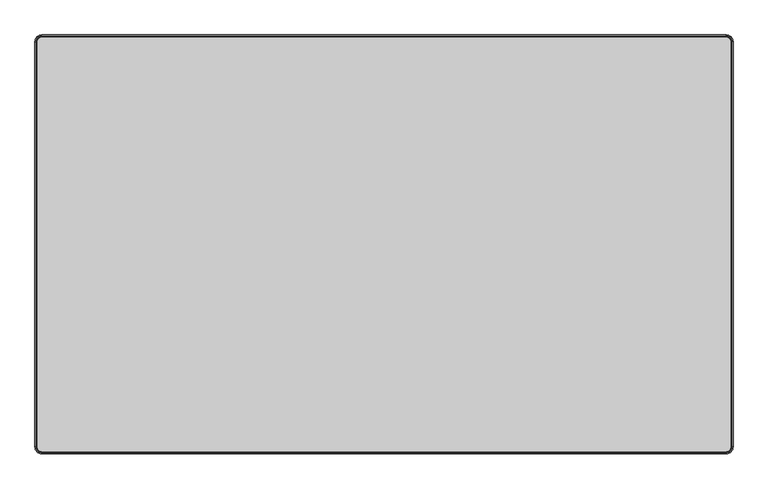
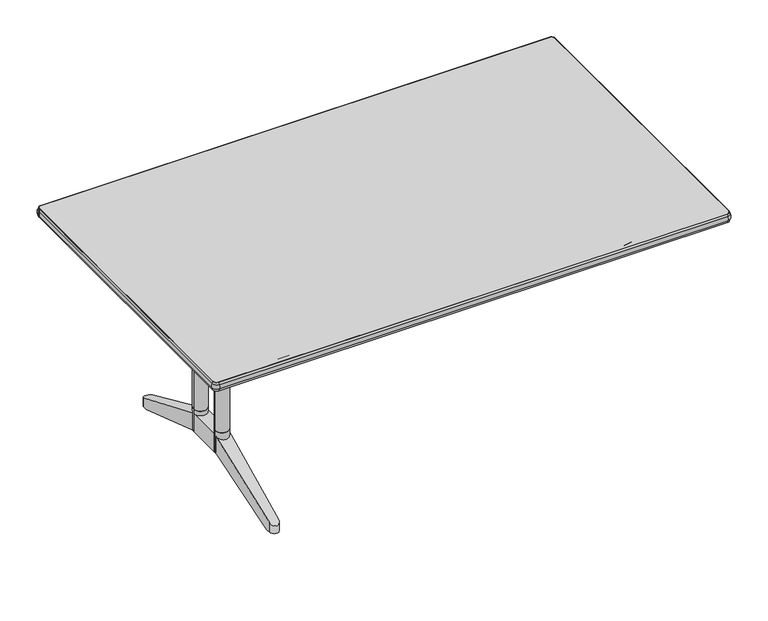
"""IFC4 building model written with IfcOpenShell, lengths in millimetres: furniture geometry."""

import ifcopenshell
import ifcopenshell.guid

model = None  # the IFC model being written
_history = None  # IfcOwnerHistory: only IFC2X3 demands one
_inside = {}  # id of a spatial element -> (the spatial element, [elements in it])
_under = {}  # id of a project, library or spatial element -> (it, [spatial elements below it])
_declared = {}  # id of a project -> (the project, [libraries it declares])
_typed = {}  # id of a type object -> (the type object, [elements of that type])
_made_of = {}  # id of a material, layer set ... -> (it, [elements and type objects made of it])


def new_model(schema):
    """Start an empty IFC model of exactly this schema.

    Asked for "IFC4X3", IfcOpenShell would pick the latest addendum, in which some entities
    have other attributes; the version numbers below select the first issue.
    IFC2X3 requires an IfcOwnerHistory on every rooted entity: one is made here for all.
    """
    global model, _history
    if schema == "IFC4X3":
        model = ifcopenshell.file(schema_version=(4, 3, 0, 0))
    else:
        model = ifcopenshell.file(schema=schema)
    _inside.clear()
    _under.clear()
    _declared.clear()
    _typed.clear()
    _made_of.clear()
    _history = None
    if model.schema == "IFC2X3":
        org = make("IfcOrganization", Name="unknown")
        user = make(
            "IfcPersonAndOrganization",
            ThePerson=make("IfcPerson", FamilyName="unknown"),
            TheOrganization=org,
        )
        app = make(
            "IfcApplication",
            ApplicationDeveloper=org,
            Version="unknown",
            ApplicationFullName="unknown",
            ApplicationIdentifier="unknown",
        )
        _history = make(
            "IfcOwnerHistory",
            OwningUser=user,
            OwningApplication=app,
            ChangeAction="ADDED",
            CreationDate=0,
        )
    return model


def make(cls, **values):
    """One entity of the class cls with the attributes given. An attribute that is None is left unset."""
    return model.create_entity(
        cls, **{name: value for name, value in values.items() if value is not None}
    )


def rooted(cls, **values):
    """An entity with a GlobalId (a new one), such as an element, a storey or a relation."""
    return make(cls, GlobalId=ifcopenshell.guid.new(), OwnerHistory=_history, **values)


def si_unit(unit_type, name, prefix=None):
    """IfcSIUnit, for example si_unit("LENGTHUNIT", "METRE", prefix="MILLI")."""
    return make("IfcSIUnit", UnitType=unit_type, Prefix=prefix, Name=name)


def assignment(units):
    """IfcUnitAssignment: the units of a project."""
    return None if units is None else make("IfcUnitAssignment", Units=units)


def point(xyz):
    """IfcCartesianPoint."""
    return None if xyz is None else make("IfcCartesianPoint", Coordinates=xyz)


def direction(xyz):
    """IfcDirection."""
    return None if xyz is None else make("IfcDirection", DirectionRatios=xyz)


def frame(location, z_axis=None, x_axis=None):
    """IfcAxis2Placement3D, a coordinate frame: its origin and axes. An axis left out is left unset."""
    return make(
        "IfcAxis2Placement3D",
        Location=point(location),
        Axis=direction(z_axis),
        RefDirection=direction(x_axis),
    )


def frame_2d(location, x_axis=None):
    """IfcAxis2Placement2D, a coordinate frame in the plane: its origin and x axis."""
    return make(
        "IfcAxis2Placement2D", Location=point(location), RefDirection=direction(x_axis)
    )


def origin():
    """The frame at (0, 0, 0) with its axes left unset."""
    return frame((0.0, 0.0, 0.0))


def place(relative_to, where):
    """IfcLocalPlacement: puts the frame where relative to a parent placement (None: the world)."""
    return make(
        "IfcLocalPlacement", PlacementRelTo=relative_to, RelativePlacement=where
    )


def context(
    kind, dimensions, precision=None, world=None, true_north=None, identifier=None
):
    """IfcGeometricRepresentationContext, for example the 3D "Model" context."""
    return make(
        "IfcGeometricRepresentationContext",
        ContextIdentifier=identifier,
        ContextType=kind,
        CoordinateSpaceDimension=dimensions,
        Precision=precision,
        WorldCoordinateSystem=world,
        TrueNorth=true_north,
    )


def project(units=None, contexts=None):
    """IfcProject with its units and contexts."""
    return rooted(
        "IfcProject",
        Name="project",
        RepresentationContexts=contexts,
        UnitsInContext=assignment(units),
    )


def spatial(cls, under=None, at=None, **own):
    """A site, building, storey or space (cls), placed at a placement, below another one or the project."""
    s = rooted(cls, ObjectPlacement=at, **own)
    if under is not None:
        _under.setdefault(under.id(), (under, []))[1].append(s)
    return s


def polyline(points):
    """IfcPolyline through the points."""
    return make("IfcPolyline", Points=[point(p) for p in points])


def circle_curve(where, radius):
    """IfcCircle in the frame where."""
    return make("IfcCircle", Position=where, Radius=radius)


def ellipse_curve(where, semi_axis1, semi_axis2):
    """IfcEllipse in the frame where."""
    return make(
        "IfcEllipse", Position=where, SemiAxis1=semi_axis1, SemiAxis2=semi_axis2
    )


def trimmed(basis, trim1, trim2, sense, master):
    """IfcTrimmedCurve: the piece of a basis curve between two trims."""
    return make(
        "IfcTrimmedCurve",
        BasisCurve=basis,
        Trim1=trim1,
        Trim2=trim2,
        SenseAgreement=sense,
        MasterRepresentation=master,
    )


def segment(curve, same_sense, transition):
    """IfcCompositeCurveSegment."""
    return make(
        "IfcCompositeCurveSegment",
        Transition=transition,
        SameSense=same_sense,
        ParentCurve=curve,
    )


def composite_curve(segments, self_intersect=None):
    """IfcCompositeCurve: segments joined end to end."""
    return make("IfcCompositeCurve", Segments=segments, SelfIntersect=self_intersect)


def outline(outer, holes=None, kind="AREA"):
    """IfcArbitraryClosedProfileDef: a profile drawn as a closed curve; with holes, ...WithVoids."""
    if holes is None:
        return make("IfcArbitraryClosedProfileDef", ProfileType=kind, OuterCurve=outer)
    return make(
        "IfcArbitraryProfileDefWithVoids",
        ProfileType=kind,
        OuterCurve=outer,
        InnerCurves=holes,
    )


def extrude(swept, where, along, depth):
    """IfcExtrudedAreaSolid: the profile swept, set in the frame where, extruded along a direction by depth."""
    return make(
        "IfcExtrudedAreaSolid",
        SweptArea=swept,
        Position=where,
        ExtrudedDirection=direction(along),
        Depth=depth,
    )


def shape(context_of_items, identifier, shape_type, items):
    """IfcShapeRepresentation: the items that make up one representation, for example the "Body"."""
    return make(
        "IfcShapeRepresentation",
        ContextOfItems=context_of_items,
        RepresentationIdentifier=identifier,
        RepresentationType=shape_type,
        Items=items,
    )


def source(mapping_origin, context_of_items, identifier, shape_type, items):
    """IfcRepresentationMap: a shape defined once, which mapped items show again and again."""
    return make(
        "IfcRepresentationMap",
        MappingOrigin=mapping_origin,
        MappedRepresentation=shape(context_of_items, identifier, shape_type, items),
    )


def transform(
    local_origin,
    x_axis=None,
    y_axis=None,
    z_axis=None,
    scale=None,
    scale2=None,
    scale3=None,
    uniform=True,
):
    """IfcCartesianTransformationOperator3D, or its non-uniform kind. x_axis, y_axis, z_axis: its Axis1, 2, 3."""
    if uniform:
        return make(
            "IfcCartesianTransformationOperator3D",
            Axis1=direction(x_axis),
            Axis2=direction(y_axis),
            LocalOrigin=point(local_origin),
            Scale=scale,
            Axis3=direction(z_axis),
        )
    return make(
        "IfcCartesianTransformationOperator3DnonUniform",
        Axis1=direction(x_axis),
        Axis2=direction(y_axis),
        LocalOrigin=point(local_origin),
        Scale=scale,
        Axis3=direction(z_axis),
        Scale2=scale2,
        Scale3=scale3,
    )


def mapped(mapping_source, mapping_target):
    """IfcMappedItem: shows the shape of a source again, moved by a transform."""
    return make(
        "IfcMappedItem", MappingSource=mapping_source, MappingTarget=mapping_target
    )


def made_of(thing, what):
    """Note that an element or type object is made of a material, layer set ...; save() writes the relation."""
    if what is not None:
        _made_of.setdefault(what.id(), (what, []))[1].append(thing)
    return thing


def element(
    cls,
    number,
    at=None,
    inside=None,
    cuts=None,
    type_object=None,
    material=None,
    context=None,
    identifier="Body",
    shape_type=None,
    held_by="IfcProductDefinitionShape",
    body=None,
    shapes=None,
    **own,
):
    """One element of the class cls, such as IfcWall. Its Tag is "e" and its number.

    at: its placement. inside: the storey or other place that contains it. cuts: it is an
    opening in that element (IfcRelVoidsElement). A single representation is given by context,
    identifier, shape_type and body (its items); several are given by shapes. held_by: the class
    of the entity that holds the representations. save() writes the other relations.
    """
    e = rooted(cls, Tag="e%d" % number, ObjectPlacement=at, **own)
    if body is not None:
        shapes = [shape(context, identifier, shape_type, body)]
    if shapes is not None:
        e.Representation = make(held_by, Representations=shapes)
    if inside is not None:
        _inside.setdefault(inside.id(), (inside, []))[1].append(e)
    if cuts is not None:
        rooted(
            "IfcRelVoidsElement", RelatingBuildingElement=cuts, RelatedOpeningElement=e
        )
    if type_object is not None:
        _typed.setdefault(type_object.id(), (type_object, []))[1].append(e)
    return made_of(e, material)


def aggregate(whole, parts):
    """IfcRelAggregates: a whole, such as a stair, and the parts it consists of."""
    return rooted("IfcRelAggregates", RelatingObject=whole, RelatedObjects=parts)


def save(model, path):
    """Write the relations noted so far, then the file.

    IfcRelAggregates (storeys below a building ...), IfcRelContainedInSpatialStructure (elements
    in a storey), IfcRelDefinesByType, IfcRelAssociatesMaterial and IfcRelDeclares: one each for
    every whole, place, type object, material and project.
    """
    for whole, parts in _under.values():
        aggregate(whole, parts)
    for where, things in _inside.values():
        rooted(
            "IfcRelContainedInSpatialStructure",
            RelatedElements=things,
            RelatingStructure=where,
        )
    for kind, things in _typed.values():
        rooted("IfcRelDefinesByType", RelatedObjects=things, RelatingType=kind)
    for what, things in _made_of.values():
        rooted("IfcRelAssociatesMaterial", RelatedObjects=things, RelatingMaterial=what)
    for by, libraries in _declared.values():
        rooted("IfcRelDeclares", RelatingContext=by, RelatedDefinitions=libraries)
    model.write(path)


def plane_surface(at):
    """IfcPlane: the flat surface through the origin of the frame at, square to its z axis."""
    return make("IfcPlane", Position=at)


def cylinder_surface(at, radius):
    """IfcCylindricalSurface: all points at the distance radius from the z axis of the frame at."""
    return make("IfcCylindricalSurface", Position=at, Radius=radius)


def revolved_surface(curve, axis_point, axis_direction):
    """IfcSurfaceOfRevolution: the curve turned about the line through axis_point along axis_direction."""
    return make(
        "IfcSurfaceOfRevolution",
        SweptCurve=make("IfcArbitraryOpenProfileDef", ProfileType="CURVE", Curve=curve),
        AxisPosition=make("IfcAxis1Placement", Location=point(axis_point), Axis=direction(axis_direction)),
    )


def advanced_brep(points, edges, surfaces, faces):
    """IfcAdvancedBrep: a solid bounded by faces that lie on surfaces and meet in shared edges.

    An edge is (start, end): straight between two places in points (the first is 0);
    or (start, end, curve); or (start, end, curve, False) where it runs against its curve.
    A face is (place in surfaces, loops), or (place, loops, False) where it looks against
    its surface's normal. A loop lists edges by number (the first is 1), with a minus sign
    where the edge is run from its end to its start. The first loop is the outer one.
    """
    corners = [point(p) for p in points]
    vertices = [make("IfcVertexPoint", VertexGeometry=c) for c in corners]
    made = []
    for start, end, *more in edges:
        made.append(
            make(
                "IfcEdgeCurve",
                EdgeStart=vertices[start],
                EdgeEnd=vertices[end],
                EdgeGeometry=more[0] if more else make("IfcPolyline", Points=[corners[start], corners[end]]),
                SameSense=more[1] if len(more) > 1 else True,
            )
        )
    hull = []
    for where, loops, *sense in faces:
        bounds = []
        for j, loop in enumerate(loops):
            ring = [make("IfcOrientedEdge", EdgeElement=made[abs(k) - 1], Orientation=k > 0) for k in loop]
            bounds.append(
                make(
                    "IfcFaceOuterBound" if j == 0 else "IfcFaceBound",
                    Bound=make("IfcEdgeLoop", EdgeList=ring),
                    Orientation=True,
                )
            )
        hull.append(make("IfcAdvancedFace", Bounds=bounds, FaceSurface=surfaces[where], SameSense=sense[0] if sense else True))
    return make("IfcAdvancedBrep", Outer=make("IfcClosedShell", CfsFaces=hull))


def furniture_8afd48f4(model_context):
    return source(origin(), model_context, "Body", "SolidModel", [
        extrude(outline(composite_curve([segment(trimmed(circle_curve(frame_2d((-508.0, -154.0488451)), 20.0), [point((-528.0, -154.0488451))], [point((-488.0, -154.0488451))], False, "CARTESIAN"), True, "CONTINUOUS"), segment(trimmed(circle_curve(frame_2d((-508.0, -154.0488451)), 20.0), [point((-488.0, -154.0488451))], [point((-528.0, -154.0488451))], False, "CARTESIAN"), True, "CONTINUOUS")], self_intersect=False)), frame((0.0, 0.0, 193.3080085), z_axis=(0.0, 0.0, 1.0), x_axis=(1.0, 0.0, 0.0)), (0.0, 0.0, 1.0), 68.8536941),
        extrude(outline(composite_curve([segment(trimmed(circle_curve(frame_2d((-508.0, -44.0488461)), 20.0), [point((-528.0, -44.0488461))], [point((-488.0, -44.0488461))], False, "CARTESIAN"), True, "CONTINUOUS"), segment(trimmed(circle_curve(frame_2d((-508.0, -44.0488461)), 20.0), [point((-488.0, -44.0488461))], [point((-528.0, -44.0488461))], False, "CARTESIAN"), True, "CONTINUOUS")], self_intersect=False)), frame((0.0, 0.0, 193.3080085), z_axis=(0.0, 0.0, 1.0), x_axis=(1.0, 0.0, 0.0)), (0.0, 0.0, 1.0), 68.8536941),
        extrude(outline(composite_curve([segment(trimmed(circle_curve(frame_2d((-508.0, -154.0488451)), 20.0), [point((-528.0, -154.0488451))], [point((-488.0, -154.0488451))], False, "CARTESIAN"), True, "CONTINUOUS"), segment(trimmed(circle_curve(frame_2d((-508.0, -154.0488451)), 20.0), [point((-488.0, -154.0488451))], [point((-528.0, -154.0488451))], False, "CARTESIAN"), True, "CONTINUOUS")], self_intersect=False)), frame((0.0, 0.0, 262.1617027), z_axis=(0.0, 0.0, 1.0), x_axis=(1.0, 0.0, 0.0)), (0.0, 0.0, 1.0), 318.0882973),
        extrude(outline(composite_curve([segment(trimmed(circle_curve(frame_2d((-508.0, -44.0488461)), 20.0), [point((-528.0, -44.0488461))], [point((-488.0, -44.0488461))], False, "CARTESIAN"), True, "CONTINUOUS"), segment(trimmed(circle_curve(frame_2d((-508.0, -44.0488461)), 20.0), [point((-488.0, -44.0488461))], [point((-528.0, -44.0488461))], False, "CARTESIAN"), True, "CONTINUOUS")], self_intersect=False)), frame((0.0, 0.0, 262.1617027), z_axis=(0.0, 0.0, 1.0), x_axis=(1.0, 0.0, 0.0)), (0.0, 0.0, 1.0), 318.0882973),
        extrude(outline(polyline([(-481.9999882, 147.9511612), (-481.9999882, -352.0488426), (-534.0000118, -352.0488426), (-534.0000118, 147.9511612), (-481.9999882, 147.9511612)])), frame((0.0, 0.0, 676.2500168), z_axis=(0.0, 0.0, 1.0), x_axis=(1.0, 0.0, 0.0)), (0.0, 0.0, 1.0), 27.9999624),
        advanced_brep(
        [(-522.9998762, -140.8200278, 676.2500168), (-492.9998905, -140.8201331, 676.2500168), (-492.9998905, -134.0488456, 676.2500168), (-522.9998762, -134.0488456, 676.2500168), (-492.9998905, -57.2775581, 676.2500168), (-522.9998762, -57.2776634, 676.2500168), (-522.9998762, -64.0488456, 676.2500168), (-492.9998905, -64.0488456, 676.2500168), (-522.9998762, -57.2776634, 580.25), (-492.9998905, -57.2775581, 580.25), (-492.9998905, -140.8201331, 580.25), (-522.9998762, -140.8200278, 580.25), (-522.9998762, -134.0488456, 598.2500176), (-522.9998762, -64.0488456, 598.2500176), (-492.9998905, -64.0488456, 598.2500176), (-492.9998905, -134.0488456, 598.2500176)],
        [
            (0, 1, circle_curve(frame((-507.9999298, -154.0488451, 676.2500168), z_axis=(0.0, 0.0, 1.0), x_axis=(1.0, 0.0, 0.0)), 20.0)),
            (1, 2),
            (2, 3),
            (3, 0),
            (4, 5, circle_curve(frame((-507.9999298, -44.0488461, 676.2500168), z_axis=(0.0, 0.0, 1.0), x_axis=(1.0, 0.0, 0.0)), 20.0)),
            (5, 6),
            (6, 7),
            (7, 4),
            (8, 9, circle_curve(frame((-507.9999298, -44.0488461, 580.25), z_axis=(0.0, 0.0, -1.0), x_axis=(1.0, 0.0, 0.0)), 20.0)),
            (9, 10),
            (10, 11, circle_curve(frame((-507.9999298, -154.0488451, 580.25), z_axis=(0.0, 0.0, -1.0), x_axis=(1.0, 0.0, 0.0)), 20.0)),
            (11, 8),
            (11, 0),
            (3, 12),
            (12, 13),
            (13, 6),
            (5, 8),
            (10, 1),
            (9, 4),
            (7, 14),
            (14, 15),
            (15, 2),
            (15, 12),
            (14, 13),
        ],
        [
            plane_surface(frame((-522.9998762, -140.8200278, 676.2500168), z_axis=(0.0, 0.0, 1.0), x_axis=(0.0, -1.0, 0.0))),
            plane_surface(frame((-522.9998762, -140.8200278, 580.25), z_axis=(0.0, 0.0, -1.0), x_axis=(0.0, 1.0, 0.0))),
            plane_surface(frame((-522.9998762, -57.2776634, 676.2500168), z_axis=(-1.0, 0.0, 0.0), x_axis=(0.0, 0.0, -1.0))),
            cylinder_surface(frame((-507.9999298, -154.0488451, 580.25), z_axis=(0.0, 0.0, 1.0), x_axis=(1.0, 0.0, 0.0)), 20.0),
            plane_surface(frame((-492.9998905, -140.8201331, 676.2500168), z_axis=(1.0, 0.0, 0.0), x_axis=(0.0, 0.0, -1.0))),
            cylinder_surface(frame((-507.9999298, -44.0488461, 580.25), z_axis=(0.0, 0.0, 1.0), x_axis=(1.0, 0.0, 0.0)), 20.0),
            plane_surface(frame((-492.9998905, -134.0488456, 676.2500168), z_axis=(0.0, 1.0, 0.0), x_axis=(-1.0, 0.0, 0.0))),
            plane_surface(frame((-492.9998905, -134.0488456, 598.2500176), z_axis=(0.0, 0.0, 1.0), x_axis=(-1.0, 0.0, 0.0))),
            plane_surface(frame((-492.9998905, -64.0488456, 598.2500176), z_axis=(0.0, -1.0, 0.0), x_axis=(-1.0, 0.0, 0.0))),
        ],
        [
            (0, [[1, 2, 3, 4]]),
            (0, [[5, 6, 7, 8]]),
            (1, [[9, 10, 11, 12]]),
            (2, [[-12, 13, -4, 14, 15, 16, -6, 17]]),
            (3, [[-1, -13, -11, 18]]),
            (4, [[-10, 19, -8, 20, 21, 22, -2, -18]]),
            (5, [[-5, -19, -9, -17]]),
            (6, [[23, -14, -3, -22]]),
            (7, [[-23, -21, 24, -15]]),
            (8, [[-24, -20, -7, -16]]),
        ],
    ),
        advanced_brep(
        [(-488.0000182, -154.0488451, 248.3080085), (-488.0000182, -44.0488461, 248.3080085), (-528.0000182, -44.0488461, 248.3080085), (-528.0000182, -154.0488451, 248.3080085), (-528.0000182, -44.0488461, 193.3080085), (-528.0000182, -154.0488451, 193.3080085), (-488.0000182, -154.0488451, 193.3080085), (-488.0000182, -44.0488461, 193.3080085), (-494.5271049, 208.4135103, 105.0), (-521.472897, 208.4135103, 105.0), (-521.1262294, 221.8222582, 105.0), (-494.8737706, 221.8222564, 105.0), (-521.1262294, 221.8222582, 133.4205559), (-494.8737706, 221.8222564, 133.4205567), (-488.2000412, -36.3121196, 193.3080085), (-527.7999941, -36.3121196, 193.3080085), (-494.8737706, -419.9199475, 133.4205567), (-521.1262294, -419.9199493, 133.4205559), (-494.8737706, -419.9199475, 105.0), (-494.5271049, -406.5112014, 105.0), (-488.2000412, -161.7855715, 193.3080085), (-521.1262294, -419.9199493, 105.0), (-527.7999941, -161.7855715, 193.3080085), (-521.472897, -406.5112014, 105.0)],
        [
            (0, 1),
            (1, 2),
            (2, 3),
            (3, 0),
            (2, 4),
            (4, 5),
            (5, 3),
            (0, 6),
            (6, 7),
            (7, 1),
            (8, 9),
            (9, 10),
            (10, 11, circle_curve(frame((-508.0, 221.4828948, 105.0), z_axis=(0.0, 0.0, -1.0), x_axis=(1.0, 0.0, 0.0)), 13.1306156)),
            (11, 8),
            (12, 2),
            (1, 13),
            (13, 12, ellipse_curve(frame((-508.0, 221.4828948, 133.5672007), z_axis=(0.0, 0.3966672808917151, 0.9179624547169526), x_axis=(0.0, 0.9179624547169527, -0.39666728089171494)), 14.3040878, 13.1306156)),
            (8, 14),
            (14, 15),
            (15, 9),
            (16, 0),
            (3, 17),
            (17, 16, ellipse_curve(frame((-508.0, -419.5805859, 133.5672007), z_axis=(0.0, -0.3966672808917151, 0.9179624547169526), x_axis=(0.0, -0.9179624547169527, -0.39666728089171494)), 14.3040878, 13.1306156)),
            (16, 18),
            (18, 19),
            (19, 20),
            (20, 6),
            (17, 21),
            (21, 18, circle_curve(frame((-508.0, -419.5805859, 105.0), z_axis=(0.0, 0.0, 1.0), x_axis=(1.0, 0.0, 0.0)), 13.1306156)),
            (5, 22),
            (22, 23),
            (23, 21),
            (12, 10),
            (15, 4),
            (13, 11),
            (7, 14),
            (23, 19),
            (22, 20),
        ],
        [
            plane_surface(frame((-488.0000182, -44.0488461, 248.3080085), z_axis=(0.0, 0.0, 1.0), x_axis=(0.0, 1.0, 0.0))),
            plane_surface(frame((-528.0000182, -44.0488461, 248.3080085), z_axis=(-1.0, 0.0, 0.0), x_axis=(0.0, 0.0, -1.0))),
            plane_surface(frame((-488.0000182, -154.0488451, 248.3080085), z_axis=(1.0, 0.0, 0.0), x_axis=(0.0, 0.0, -1.0))),
            plane_surface(frame((-486.6205415, 208.4135103, 105.0), z_axis=(0.0, 0.0, -1.0), x_axis=(-1.0, 0.0, 0.0))),
            plane_surface(frame((-486.6205415, 235.9511544, 127.3152182), z_axis=(0.0, 0.3966672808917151, 0.9179624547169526), x_axis=(-1.0, 0.0, 0.0))),
            plane_surface(frame((-486.6205415, -36.3121196, 193.3080085), z_axis=(0.0, -0.3394229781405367, -0.9406338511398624), x_axis=(-1.0, 0.0, 0.0))),
            plane_surface(frame((-486.6205415, -154.0488451, 248.3080085), z_axis=(0.0, -0.3966672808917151, 0.9179624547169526), x_axis=(-1.0, 0.0, 0.0))),
            plane_surface(frame((-488.0000182, -154.0488451, 249.0000084), z_axis=(0.9996659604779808, -0.025845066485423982, 0.0), x_axis=(0.0, 0.0, -1.0))),
            cylinder_surface(frame((-508.0, -419.5805859, 90.0000025), z_axis=(0.0, 0.0, -1.0), x_axis=(1.0, 0.0, 0.0)), 13.1306156),
            plane_surface(frame((-521.1262294, -419.9199493, 249.0000084), z_axis=(-0.9996659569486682, -0.025845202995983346, 0.0), x_axis=(0.0, 0.0, -1.0))),
            plane_surface(frame((-528.0000182, -44.0488461, 249.0000084), z_axis=(-0.9996659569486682, 0.025845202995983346, 0.0), x_axis=(0.0, 0.0, -1.0))),
            cylinder_surface(frame((-508.0, 221.4828948, 0.0), z_axis=(0.0, 0.0, -1.0), x_axis=(1.0, 0.0, 0.0)), 13.1306156),
            plane_surface(frame((-494.8737706, 221.8222564, 249.0000084), z_axis=(0.9996659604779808, 0.025845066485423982, 0.0), x_axis=(0.0, 0.0, -1.0))),
            plane_surface(frame((-486.6205415, -434.0488456, 105.0), z_axis=(0.0, 0.0, -1.0), x_axis=(-1.0, 0.0, 0.0))),
            plane_surface(frame((-486.6205415, -406.5112014, 105.0), z_axis=(0.0, 0.3394229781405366, -0.9406338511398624), x_axis=(-1.0, 0.0, 0.0))),
            plane_surface(frame((-486.6205415, -44.0488461, 193.3080085), z_axis=(0.0, 0.0, -1.0), x_axis=(-1.0, 0.0, 0.0))),
        ],
        [
            (0, [[1, 2, 3, 4]]),
            (1, [[-3, 5, 6, 7]]),
            (2, [[-1, 8, 9, 10]]),
            (3, [[11, 12, 13, 14]]),
            (4, [[15, -2, 16, 17]]),
            (5, [[-11, 18, 19, 20]]),
            (6, [[21, -4, 22, 23]]),
            (7, [[24, 25, 26, 27, -8, -21]]),
            (8, [[-24, -23, 28, 29]]),
            (9, [[-28, -22, -7, 30, 31, 32]]),
            (10, [[33, -12, -20, 34, -5, -15]]),
            (11, [[-33, -17, 35, -13]]),
            (12, [[-35, -16, -10, 36, -18, -14]]),
            (13, [[37, -25, -29, -32]]),
            (14, [[-37, -31, 38, -26]]),
            (15, [[-19, -36, -9, -27, -38, -30, -6, -34]]),
        ],
    ),
        extrude(outline(composite_curve([segment(trimmed(circle_curve(frame_2d((-747.0, 343.1511544)), 10.0), [point((-757.0, 343.1511544))], [point((-747.0, 353.1511544))], False, "CARTESIAN"), True, "CONTINUOUS"), segment(polyline([(-747.0, 353.1511544), (747.0, 353.1511544)]), True, "CONTINUOUS"), segment(trimmed(circle_curve(frame_2d((747.0, 343.1511544)), 10.0), [point((747.0, 353.1511544))], [point((757.0, 343.1511544))], False, "CARTESIAN"), True, "CONTINUOUS"), segment(polyline([(757.0, 343.1511544), (757.0, -541.2488456)]), True, "CONTINUOUS"), segment(trimmed(circle_curve(frame_2d((747.0, -541.2488456)), 10.0), [point((757.0, -541.2488456))], [point((747.0, -551.2488456))], False, "CARTESIAN"), True, "CONTINUOUS"), segment(polyline([(747.0, -551.2488456), (-747.0, -551.2488456)]), True, "CONTINUOUS"), segment(trimmed(circle_curve(frame_2d((-747.0, -541.2488456)), 10.0), [point((-747.0, -551.2488456))], [point((-757.0, -541.2488456))], False, "CARTESIAN"), True, "CONTINUOUS"), segment(polyline([(-757.0, -541.2488456), (-757.0, 343.1511544)]), True, "CONTINUOUS")], self_intersect=False)), frame((0.0, 0.0, 704.2499792), z_axis=(0.0, 0.0, 1.0), x_axis=(1.0, 0.0, 0.0)), (0.0, 0.0, 1.0), 26.0000208),
        extrude(outline(composite_curve([segment(trimmed(circle_curve(frame_2d((690.249998, -508.0)), 3.5), [point((686.749998, -508.0))], [point((693.749998, -508.0))], False, "CARTESIAN"), True, "CONTINUOUS"), segment(trimmed(circle_curve(frame_2d((690.249998, -508.0)), 3.5), [point((693.749998, -508.0))], [point((686.749998, -508.0))], False, "CARTESIAN"), True, "CONTINUOUS")], self_intersect=False)), frame((0.0, -482.6394749, 0.0), z_axis=(0.0, 1.0, 0.0), x_axis=(0.0, 0.0, 1.0)), (0.0, 0.0, 1.0), 130.5906323),
        extrude(outline(composite_curve([segment(trimmed(circle_curve(frame_2d((690.249998, 508.0)), 3.5), [point((686.749998, 508.0))], [point((693.749998, 508.0))], False, "CARTESIAN"), True, "CONTINUOUS"), segment(trimmed(circle_curve(frame_2d((690.249998, 508.0)), 3.5), [point((693.749998, 508.0))], [point((686.749998, 508.0))], False, "CARTESIAN"), True, "CONTINUOUS")], self_intersect=False)), frame((0.0, -482.6394749, 0.0), z_axis=(0.0, 1.0, 0.0), x_axis=(0.0, 0.0, 1.0)), (0.0, 0.0, 1.0), 130.5906323),
        advanced_brep(
        [(-747.0, -551.2488456, 704.2499792), (-757.0, -541.2488456, 704.2499792), (-757.0, -541.2488456, 730.25), (-747.0, -551.2488456, 730.25), (-747.0, -554.6983863, 710.6562743), (-760.4495407, -541.2488456, 710.6562743), (-758.2436764, -541.2488456, 704.2499792), (-747.0, -552.492522, 704.2499792), (-747.0, -554.6983863, 723.843705), (-760.4495407, -541.2488456, 723.843705), (-747.0, -552.492522, 730.25), (-758.2436764, -541.2488456, 730.25), (747.0, -551.2488456, 730.25), (747.0, -551.2488456, 704.2499792), (747.0, -552.492522, 704.2499792), (747.0, -554.6983863, 710.6562743), (747.0, -554.6983863, 723.843705), (747.0, -552.492522, 730.25), (757.0, -541.2488456, 704.2499792), (757.0, -541.2488456, 730.25), (760.4495407, -541.2488456, 710.6562743), (758.2436764, -541.2488456, 704.2499792), (760.4495407, -541.2488456, 723.843705), (758.2436764, -541.2488456, 730.25), (757.0, 343.1511544, 730.25), (757.0, 343.1511544, 704.2499792), (758.2436764, 343.1511544, 704.2499792), (760.4495407, 343.1511544, 710.6562743), (760.4495407, 343.1511544, 723.843705), (758.2436764, 343.1511544, 730.25), (747.0, 353.1511544, 704.2499792), (747.0, 353.1511544, 730.25), (747.0, 356.6006952, 710.6562743), (747.0, 354.3948309, 704.2499792), (747.0, 356.6006952, 723.843705), (747.0, 354.3948309, 730.25), (-747.0, 353.1511544, 730.25), (-747.0, 353.1511544, 704.2499792), (-747.0, 354.3948309, 704.2499792), (-747.0, 356.6006952, 710.6562743), (-747.0, 356.6006952, 723.843705), (-747.0, 354.3948309, 730.25), (-757.0, 343.1511544, 704.2499792), (-757.0, 343.1511544, 730.25), (-760.4495407, 343.1511544, 710.6562743), (-758.2436764, 343.1511544, 704.2499792), (-760.4495407, 343.1511544, 723.843705), (-758.2436764, 343.1511544, 730.25)],
        [
            (0, 1, circle_curve(frame((-747.0, -541.2488456, 704.2499792), z_axis=(0.0, 0.0, -1.0), x_axis=(-1.0, 0.0, 0.0)), 10.0)),
            (1, 2),
            (2, 3, circle_curve(frame((-747.0, -541.2488456, 730.25), z_axis=(0.0, 0.0, 1.0), x_axis=(-1.0, 0.0, 0.0)), 10.0)),
            (3, 0),
            (4, 5, circle_curve(frame((-747.0, -541.2488456, 710.6562743), z_axis=(0.0, 0.0, -1.0), x_axis=(-1.0, 0.0, 0.0)), 13.4495407)),
            (5, 6),
            (6, 7, circle_curve(frame((-747.0, -541.2488456, 704.2499792), z_axis=(0.0, 0.0, 1.0), x_axis=(-1.0, 0.0, 0.0)), 11.2436764)),
            (7, 4),
            (8, 9, circle_curve(frame((-747.0, -541.2488456, 723.843705), z_axis=(0.0, 0.0, -1.0), x_axis=(-1.0, 0.0, 0.0)), 13.4495407)),
            (9, 5, circle_curve(frame((-747.2040596, -541.2488456, 717.2499896), z_axis=(0.0, -1.0, 0.0), x_axis=(1.0, 0.0, 0.0)), 14.7959404)),
            (4, 8, circle_curve(frame((-747.0, -541.4529051, 717.2499896), z_axis=(-1.0, 0.0, 0.0), x_axis=(0.0, 1.0, 0.0)), 14.7959404)),
            (10, 11, circle_curve(frame((-747.0, -541.2488456, 730.25), z_axis=(0.0, 0.0, -1.0), x_axis=(-1.0, 0.0, 0.0)), 11.2436764)),
            (11, 9),
            (8, 10),
            (3, 12),
            (12, 13),
            (13, 0),
            (7, 14),
            (14, 15),
            (15, 4),
            (15, 16, circle_curve(frame((747.0, -541.4529051, 717.2499896), z_axis=(-1.0, 0.0, 0.0), x_axis=(0.0, 1.0, 0.0)), 14.7959404)),
            (16, 8),
            (16, 17),
            (17, 10),
            (18, 13, circle_curve(frame((747.0, -541.2488456, 704.2499792), z_axis=(0.0, 0.0, -1.0), x_axis=(0.0, -1.0, 0.0)), 10.0)),
            (12, 19, circle_curve(frame((747.0, -541.2488456, 730.25), z_axis=(0.0, 0.0, 1.0), x_axis=(0.0, -1.0, 0.0)), 10.0)),
            (19, 18),
            (20, 15, circle_curve(frame((747.0, -541.2488456, 710.6562743), z_axis=(0.0, 0.0, -1.0), x_axis=(0.0, -1.0, 0.0)), 13.4495407)),
            (14, 21, circle_curve(frame((747.0, -541.2488456, 704.2499792), z_axis=(0.0, 0.0, 1.0), x_axis=(0.0, -1.0, 0.0)), 11.2436764)),
            (21, 20),
            (22, 16, circle_curve(frame((747.0, -541.2488456, 723.843705), z_axis=(0.0, 0.0, -1.0), x_axis=(0.0, -1.0, 0.0)), 13.4495407)),
            (20, 22, circle_curve(frame((747.2040596, -541.2488456, 717.2499896), z_axis=(0.0, -1.0, 0.0), x_axis=(-1.0, 0.0, 0.0)), 14.7959404)),
            (23, 17, circle_curve(frame((747.0, -541.2488456, 730.25), z_axis=(0.0, 0.0, -1.0), x_axis=(0.0, -1.0, 0.0)), 11.2436764)),
            (22, 23),
            (19, 24),
            (24, 25),
            (25, 18),
            (21, 26),
            (26, 27),
            (27, 20),
            (27, 28, circle_curve(frame((747.2040596, 343.1511544, 717.2499896), z_axis=(0.0, -1.0, 0.0), x_axis=(-1.0, 0.0, 0.0)), 14.7959404)),
            (28, 22),
            (28, 29),
            (29, 23),
            (30, 25, circle_curve(frame((747.0, 343.1511544, 704.2499792), z_axis=(0.0, 0.0, -1.0), x_axis=(1.0, 0.0, 0.0)), 10.0)),
            (24, 31, circle_curve(frame((747.0, 343.1511544, 730.25), z_axis=(0.0, 0.0, 1.0), x_axis=(1.0, 0.0, 0.0)), 10.0)),
            (31, 30),
            (32, 27, circle_curve(frame((747.0, 343.1511544, 710.6562743), z_axis=(0.0, 0.0, -1.0), x_axis=(1.0, 0.0, 0.0)), 13.4495407)),
            (26, 33, circle_curve(frame((747.0, 343.1511544, 704.2499792), z_axis=(0.0, 0.0, 1.0), x_axis=(1.0, 0.0, 0.0)), 11.2436764)),
            (33, 32),
            (34, 28, circle_curve(frame((747.0, 343.1511544, 723.843705), z_axis=(0.0, 0.0, -1.0), x_axis=(1.0, 0.0, 0.0)), 13.4495407)),
            (32, 34, circle_curve(frame((747.0, 343.355214, 717.2499896), z_axis=(1.0, 0.0, 0.0), x_axis=(0.0, -1.0, 0.0)), 14.7959404)),
            (35, 29, circle_curve(frame((747.0, 343.1511544, 730.25), z_axis=(0.0, 0.0, -1.0), x_axis=(1.0, 0.0, 0.0)), 11.2436764)),
            (34, 35),
            (31, 36),
            (36, 37),
            (37, 30),
            (33, 38),
            (38, 39),
            (39, 32),
            (39, 40, circle_curve(frame((-747.0, 343.355214, 717.2499896), z_axis=(1.0, 0.0, 0.0), x_axis=(0.0, -1.0, 0.0)), 14.7959404)),
            (40, 34),
            (40, 41),
            (41, 35),
            (42, 37, circle_curve(frame((-747.0, 343.1511544, 704.2499792), z_axis=(0.0, 0.0, -1.0), x_axis=(0.0, 1.0, 0.0)), 10.0)),
            (36, 43, circle_curve(frame((-747.0, 343.1511544, 730.25), z_axis=(0.0, 0.0, 1.0), x_axis=(0.0, 1.0, 0.0)), 10.0)),
            (43, 42),
            (44, 39, circle_curve(frame((-747.0, 343.1511544, 710.6562743), z_axis=(0.0, 0.0, -1.0), x_axis=(0.0, 1.0, 0.0)), 13.4495407)),
            (38, 45, circle_curve(frame((-747.0, 343.1511544, 704.2499792), z_axis=(0.0, 0.0, 1.0), x_axis=(0.0, 1.0, 0.0)), 11.2436764)),
            (45, 44),
            (46, 40, circle_curve(frame((-747.0, 343.1511544, 723.843705), z_axis=(0.0, 0.0, -1.0), x_axis=(0.0, 1.0, 0.0)), 13.4495407)),
            (44, 46, circle_curve(frame((-747.2040596, 343.1511544, 717.2499896), z_axis=(0.0, 1.0, 0.0), x_axis=(1.0, 0.0, 0.0)), 14.7959404)),
            (47, 41, circle_curve(frame((-747.0, 343.1511544, 730.25), z_axis=(0.0, 0.0, -1.0), x_axis=(0.0, 1.0, 0.0)), 11.2436764)),
            (46, 47),
            (43, 2),
            (1, 42),
            (45, 6),
            (5, 44),
            (9, 46),
            (11, 47),
        ],
        [
            revolved_surface(polyline([(-757.0, -541.2488456, 730.25), (-757.0, -541.2488456, 704.2499792)]), (-747.0, -541.2488456, 730.25), (0.0, 0.0, 1.0)),
            revolved_surface(polyline([(-758.2436764, -541.2488456, 704.2499792), (-760.4495407, -541.2488456, 710.6562743)]), (-747.0, -541.2488456, 730.25), (0.0, 0.0, 1.0)),
            revolved_surface(trimmed(ellipse_curve(frame((-747.2040596, -541.2488456, 717.2499896), z_axis=(0.0, 1.0, 0.0), x_axis=(1.0, 0.0, 0.0)), 14.7959404, 14.7959404), [point((-760.4495407, -541.2488456, 710.6562743))], [point((-760.4495407, -541.2488456, 723.843705))], True, "CARTESIAN"), (-747.0, -541.2488456, 730.25), (0.0, 0.0, 1.0)),
            revolved_surface(polyline([(-760.4495407, -541.2488456, 723.843705), (-758.2436764, -541.2488456, 730.25)]), (-747.0, -541.2488456, 730.25), (0.0, 0.0, 1.0)),
            plane_surface(frame((-747.0, -551.2488456, 730.25), z_axis=(0.0, 1.0, 0.0), x_axis=(1.0, 0.0, 0.0))),
            plane_surface(frame((-747.0, -552.492522, 704.2499792), z_axis=(0.0, -0.9455185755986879, -0.32556815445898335), x_axis=(1.0, 0.0, 0.0))),
            cylinder_surface(frame((-747.0, -541.4529051, 717.2499896), z_axis=(-1.0, 0.0, 0.0), x_axis=(0.0, 1.0, 0.0)), 14.7959404),
            plane_surface(frame((-747.0, -554.6983863, 723.843705), z_axis=(0.0, -0.945518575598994, 0.32556815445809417), x_axis=(1.0, 0.0, 0.0))),
            revolved_surface(polyline([(747.0, -551.2488456, 730.25), (747.0, -551.2488456, 704.2499792)]), (747.0, -541.2488456, 730.25), (0.0, 0.0, 1.0)),
            revolved_surface(polyline([(747.0, -552.492522, 704.2499792), (747.0, -554.6983863, 710.6562743)]), (747.0, -541.2488456, 730.25), (0.0, 0.0, 1.0)),
            revolved_surface(trimmed(ellipse_curve(frame((747.0, -541.4529051, 717.2499896), z_axis=(-1.0, 0.0, 0.0), x_axis=(0.0, 1.0, 0.0)), 14.7959404, 14.7959404), [point((747.0, -554.6983863, 710.6562743))], [point((747.0, -554.6983863, 723.843705))], True, "CARTESIAN"), (747.0, -541.2488456, 730.25), (0.0, 0.0, 1.0)),
            revolved_surface(polyline([(747.0, -554.6983863, 723.843705), (747.0, -552.492522, 730.25)]), (747.0, -541.2488456, 730.25), (0.0, 0.0, 1.0)),
            plane_surface(frame((757.0, -541.2488456, 730.25), z_axis=(-1.0, 0.0, 0.0), x_axis=(0.0, 1.0, 0.0))),
            plane_surface(frame((758.2436764, -541.2488456, 704.2499792), z_axis=(0.9455185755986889, 0.0, -0.32556815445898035), x_axis=(0.0, 1.0, 0.0))),
            cylinder_surface(frame((747.2040596, -541.2488456, 717.2499896), z_axis=(0.0, -1.0, 0.0), x_axis=(-1.0, 0.0, 0.0)), 14.7959404),
            plane_surface(frame((760.4495407, -541.2488456, 723.843705), z_axis=(0.945518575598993, 0.0, 0.32556815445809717), x_axis=(0.0, 1.0, 0.0))),
            revolved_surface(polyline([(757.0, 343.1511544, 730.25), (757.0, 343.1511544, 704.2499792)]), (747.0, 343.1511544, 730.25), (0.0, 0.0, 1.0)),
            revolved_surface(polyline([(758.2436764, 343.1511544, 704.2499792), (760.4495407, 343.1511544, 710.6562743)]), (747.0, 343.1511544, 730.25), (0.0, 0.0, 1.0)),
            revolved_surface(trimmed(ellipse_curve(frame((747.2040596, 343.1511544, 717.2499896), z_axis=(0.0, -1.0, 0.0), x_axis=(-1.0, 0.0, 0.0)), 14.7959404, 14.7959404), [point((760.4495407, 343.1511544, 710.6562743))], [point((760.4495407, 343.1511544, 723.843705))], True, "CARTESIAN"), (747.0, 343.1511544, 730.25), (0.0, 0.0, 1.0)),
            revolved_surface(polyline([(760.4495407, 343.1511544, 723.843705), (758.2436764, 343.1511544, 730.25)]), (747.0, 343.1511544, 730.25), (0.0, 0.0, 1.0)),
            plane_surface(frame((747.0, 353.1511544, 730.25), z_axis=(0.0, -1.0, 0.0), x_axis=(-1.0, 0.0, 0.0))),
            plane_surface(frame((747.0, 354.3948309, 704.2499792), z_axis=(0.0, 0.9455185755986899, -0.32556815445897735), x_axis=(-1.0, 0.0, 0.0))),
            cylinder_surface(frame((747.0, 343.355214, 717.2499896), z_axis=(1.0, 0.0, 0.0), x_axis=(0.0, -1.0, 0.0)), 14.7959404),
            plane_surface(frame((747.0, 356.6006952, 723.843705), z_axis=(0.0, 0.945518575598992, 0.32556815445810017), x_axis=(-1.0, 0.0, 0.0))),
            revolved_surface(polyline([(-747.0, 353.1511544, 730.25), (-747.0, 353.1511544, 704.2499792)]), (-747.0, 343.1511544, 730.25), (0.0, 0.0, 1.0)),
            revolved_surface(polyline([(-747.0, 354.3948309, 704.2499792), (-747.0, 356.6006952, 710.6562743)]), (-747.0, 343.1511544, 730.25), (0.0, 0.0, 1.0)),
            revolved_surface(trimmed(ellipse_curve(frame((-747.0, 343.355214, 717.2499896), z_axis=(1.0, 0.0, 0.0), x_axis=(0.0, -1.0, 0.0)), 14.7959404, 14.7959404), [point((-747.0, 356.6006952, 710.6562743))], [point((-747.0, 356.6006952, 723.843705))], True, "CARTESIAN"), (-747.0, 343.1511544, 730.25), (0.0, 0.0, 1.0)),
            revolved_surface(polyline([(-747.0, 356.6006952, 723.843705), (-747.0, 354.3948309, 730.25)]), (-747.0, 343.1511544, 730.25), (0.0, 0.0, 1.0)),
            plane_surface(frame((-757.0, 343.1511544, 730.25), z_axis=(1.0, 0.0, 0.0), x_axis=(0.0, -1.0, 0.0))),
            plane_surface(frame((-758.2436764, 343.1511544, 704.2499792), z_axis=(-0.9455185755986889, 0.0, -0.32556815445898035), x_axis=(0.0, -1.0, 0.0))),
            cylinder_surface(frame((-747.2040596, 343.1511544, 717.2499896), z_axis=(0.0, 1.0, 0.0), x_axis=(1.0, 0.0, 0.0)), 14.7959404),
            plane_surface(frame((-760.4495407, 343.1511544, 723.843705), z_axis=(-0.945518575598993, 0.0, 0.32556815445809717), x_axis=(0.0, -1.0, 0.0))),
            plane_surface(frame((-757.0, 343.1511544, 704.2499792), z_axis=(0.0, 0.0, -1.0), x_axis=(0.0, -1.0, 0.0))),
            plane_surface(frame((-758.2436764, 343.1511544, 730.25), z_axis=(0.0, 0.0, 1.0), x_axis=(0.0, -1.0, 0.0))),
        ],
        [
            (0, [[1, 2, 3, 4]]),
            (1, [[5, 6, 7, 8]]),
            (2, [[9, 10, -5, 11]]),
            (3, [[12, 13, -9, 14]]),
            (4, [[-4, 15, 16, 17]]),
            (5, [[-8, 18, 19, 20]]),
            (6, [[-11, -20, 21, 22]]),
            (7, [[-14, -22, 23, 24]]),
            (8, [[25, -16, 26, 27]]),
            (9, [[28, -19, 29, 30]]),
            (10, [[31, -21, -28, 32]]),
            (11, [[33, -23, -31, 34]]),
            (12, [[-27, 35, 36, 37]]),
            (13, [[-30, 38, 39, 40]]),
            (14, [[-32, -40, 41, 42]]),
            (15, [[-34, -42, 43, 44]]),
            (16, [[45, -36, 46, 47]]),
            (17, [[48, -39, 49, 50]]),
            (18, [[51, -41, -48, 52]]),
            (19, [[53, -43, -51, 54]]),
            (20, [[-47, 55, 56, 57]]),
            (21, [[-50, 58, 59, 60]]),
            (22, [[-52, -60, 61, 62]]),
            (23, [[-54, -62, 63, 64]]),
            (24, [[65, -56, 66, 67]]),
            (25, [[68, -59, 69, 70]]),
            (26, [[71, -61, -68, 72]]),
            (27, [[73, -63, -71, 74]]),
            (28, [[-67, 75, -2, 76]]),
            (29, [[-70, 77, -6, 78]]),
            (30, [[-72, -78, -10, 79]]),
            (31, [[-74, -79, -13, 80]]),
            (32, [[-77, -69, -58, -49, -38, -29, -18, -7], [-57, -65, -76, -1, -17, -25, -37, -45]]),
            (33, [[-64, -73, -80, -12, -24, -33, -44, -53], [-75, -66, -55, -46, -35, -26, -15, -3]]),
        ],
    ),
        advanced_brep(
        [(-533.9999286, -482.6394749, 701.9835614), (-533.9999286, -482.6394749, 686.9835614), (-453.1927788, -482.6394749, 678.983541), (-452.000359, -482.6394749, 693.983541), (452.000359, -482.6394749, 693.983541), (453.1927788, -482.6394749, 678.983541), (533.8748715, -482.6394749, 701.9835614), (533.8748715, -482.6394749, 686.9835614), (502.0003594, -482.6394749, 701.9835614), (503.1927792, -482.6394749, 686.9835614), (-502.0003594, -482.6394749, 701.9835614), (-503.1927792, -482.6394749, 686.9835614)],
        [
            (0, 1, circle_curve(frame((-533.9999286, -482.6394749, 694.4835614), z_axis=(-1.0, 0.0, 0.0), x_axis=(0.0, 0.0, -1.0)), 7.5)),
            (1, 0, circle_curve(frame((-533.9999286, -482.6394749, 694.4835614), z_axis=(-1.0, 0.0, 0.0), x_axis=(0.0, 0.0, -1.0)), 7.5)),
            (2, 3, ellipse_curve(frame((-452.5965689, -482.6394749, 686.483541), z_axis=(0.9968551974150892, 0.0, -0.07924465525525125), x_axis=(-0.07924465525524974, 0.0, -0.9968551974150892)), 7.5236604, 7.5)),
            (3, 4),
            (4, 5, ellipse_curve(frame((452.5965689, -482.6394749, 686.483541), z_axis=(-0.9968551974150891, 0.0, -0.07924465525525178), x_axis=(-0.07924465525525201, 0.0, 0.9968551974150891)), 7.5236604, 7.5)),
            (5, 2),
            (3, 2, ellipse_curve(frame((-452.5965689, -482.6394749, 686.483541), z_axis=(0.9968551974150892, 0.0, -0.07924465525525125), x_axis=(-0.07924465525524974, 0.0, -0.9968551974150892)), 7.5236604, 7.5)),
            (5, 4, ellipse_curve(frame((452.5965689, -482.6394749, 686.483541), z_axis=(-0.9968551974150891, 0.0, -0.07924465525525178), x_axis=(-0.07924465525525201, 0.0, 0.9968551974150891)), 7.5236604, 7.5)),
            (6, 7, circle_curve(frame((533.8748715, -482.6394749, 694.4835614), z_axis=(1.0, 0.0, 0.0), x_axis=(0.0, 0.0, -1.0)), 7.5)),
            (7, 6, circle_curve(frame((533.8748715, -482.6394749, 694.4835614), z_axis=(1.0, 0.0, 0.0), x_axis=(0.0, 0.0, -1.0)), 7.5)),
            (4, 8),
            (8, 9, ellipse_curve(frame((502.5965693, -482.6394749, 694.4835614), z_axis=(-0.9968551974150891, 0.0, -0.07924465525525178), x_axis=(0.07924465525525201, 0.0, -0.9968551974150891)), 7.5236604, 7.5)),
            (9, 5),
            (9, 8, ellipse_curve(frame((502.5965693, -482.6394749, 694.4835614), z_axis=(-0.9968551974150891, 0.0, -0.07924465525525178), x_axis=(0.07924465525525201, 0.0, -0.9968551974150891)), 7.5236604, 7.5)),
            (8, 6),
            (7, 9),
            (0, 10),
            (10, 11, ellipse_curve(frame((-502.5965693, -482.6394749, 694.4835614), z_axis=(-0.9968551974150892, 0.0, 0.07924465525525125), x_axis=(-0.07924465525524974, 0.0, -0.9968551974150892)), 7.5236604, 7.5)),
            (11, 1),
            (11, 10, ellipse_curve(frame((-502.5965693, -482.6394749, 694.4835614), z_axis=(-0.9968551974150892, 0.0, 0.07924465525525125), x_axis=(-0.07924465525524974, 0.0, -0.9968551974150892)), 7.5236604, 7.5)),
            (10, 3),
            (2, 11),
        ],
        [
            plane_surface(frame((-533.9999286, -556.2488456, 664.2500082), z_axis=(-1.0, 0.0, 0.0), x_axis=(0.0, 1.0, 0.0))),
            cylinder_surface(frame((-454.9999746, -482.6394749, 686.483541), z_axis=(-1.0, 0.0, 0.0), x_axis=(0.0, 0.0, -1.0)), 7.5),
            plane_surface(frame((533.8748715, -556.2488456, 664.2500082), z_axis=(1.0, 0.0, 0.0), x_axis=(0.0, 1.0, 0.0))),
            cylinder_surface(frame((450.2233486, -482.6394749, 686.1038248), z_axis=(-0.9874405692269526, 0.0, -0.15799089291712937), x_axis=(0.15799089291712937, 0.0, -0.9874405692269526)), 7.5),
            cylinder_surface(frame((504.999975, -482.6394749, 694.4835614), z_axis=(-1.0, 0.0, 0.0), x_axis=(0.0, 0.0, -1.0)), 7.5),
            cylinder_surface(frame((-533.9999286, -482.6394749, 694.4835614), z_axis=(-1.0, 0.0, 0.0), x_axis=(0.0, 0.0, -1.0)), 7.5),
            cylinder_surface(frame((-500.2233489, -482.6394749, 694.1038452), z_axis=(-0.9874405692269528, 0.0, 0.15799089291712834), x_axis=(-0.15799089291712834, 0.0, -0.9874405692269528)), 7.5),
        ],
        [
            (0, [[1, 2]]),
            (1, [[3, 4, 5, 6]]),
            (1, [[7, -6, 8, -4]]),
            (2, [[9, 10]]),
            (3, [[-5, 11, 12, 13]]),
            (3, [[-8, -13, 14, -11]]),
            (4, [[-12, 15, -10, 16]]),
            (4, [[-14, -16, -9, -15]]),
            (5, [[-1, 17, 18, 19]]),
            (5, [[-2, -19, 20, -17]]),
            (6, [[-18, 21, -3, 22]]),
            (6, [[-20, -22, -7, -21]]),
        ],
    ),
        extrude(outline(polyline([(-66.0488461, 600.2500046), (-66.0488461, 658.2500254), (-64.0488456, 658.2500254), (-64.0488456, 598.2500176), (-134.0488456, 598.2500176), (-134.0488456, 658.2500254), (-132.048845, 658.2500254), (-132.048845, 600.2500046), (-66.0488461, 600.2500046)])), frame((-523.0, 0.0, 0.0), z_axis=(1.0, 0.0, 0.0), x_axis=(0.0, 1.0, 0.0)), (0.0, 0.0, 1.0), 1046.0),
    ])


if __name__ == "__main__":
    model = new_model("IFC4")
    model_context = context("Model", 3, world=origin())
    ifc_project = project(units=[si_unit("LENGTHUNIT", "METRE", prefix="MILLI")], contexts=[model_context])
    site = spatial("IfcSite", under=ifc_project)
    building = spatial("IfcBuilding", under=site)
    placement = place(None, origin())
    furniture_shape = furniture_8afd48f4(model_context)
    element("IfcFurniture", 1, ObjectType="Furniture_Wilkhahn_Timetable_614-00_Shift : 36\"W x 60\"L", at=placement, inside=building, context=model_context, shape_type="MappedRepresentation", body=[
        mapped(furniture_shape, transform((0.0, 0.0, 0.0), x_axis=(1.0, 0.0, 0.0), y_axis=(0.0, 1.0, 0.0), z_axis=(0.0, 0.0, 1.0))),
    ])
    save(model, "model.ifc")
